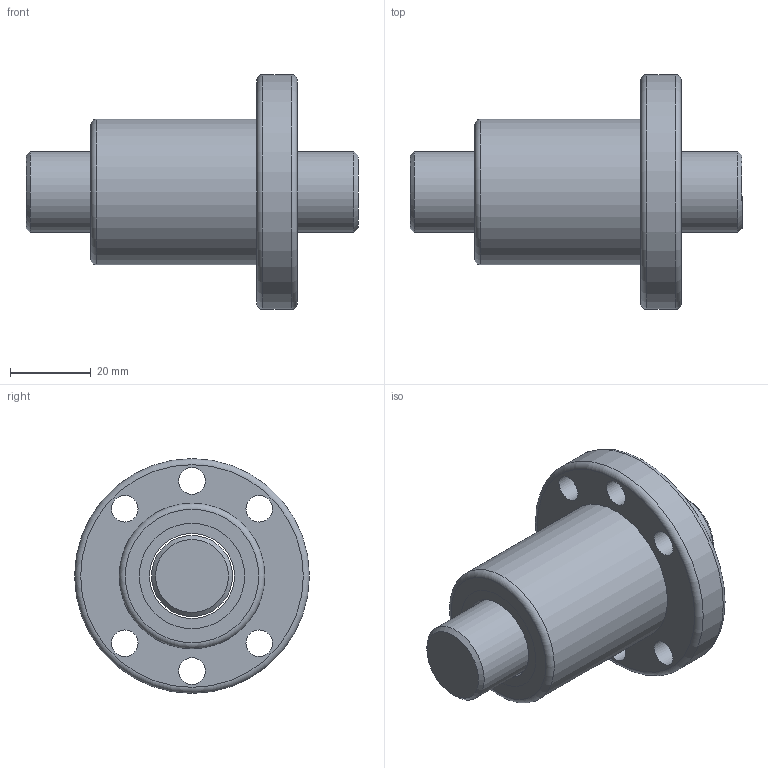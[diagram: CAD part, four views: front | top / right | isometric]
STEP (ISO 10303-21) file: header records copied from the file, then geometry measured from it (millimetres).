
FILE_DESCRIPTION(/* description */ (''),/* implementation_level */ '2;1');
FILE_NAME(/* name */ 'SFU2005',/* time_stamp */ '2007-10-26T13:26:03+08:00',/* author */ (''),/* organization */ (''),/* preprocessor_version */ 'ST-DEVELOPER v9',/* originating_system */ 'EDS PLM SOLUTIONS - UNIGRAPHICS NX 1.0',/* authorisation */ '');
FILE_SCHEMA (('CONFIG_CONTROL_DESIGN'));
Length unit declared in the file: millimetre
Products named in the file (1): FANNDA0400hz
Bounding box: 82 x 58 x 58 mm (x, y, z)
Volume: 73909.4 mm3; surface area: 23014.5 mm2
Topology: 4 solids, 4 shells, 32 faces, 64 edges, 43 vertices
Faces by surface type: cylinder 16, plane 11, torus 3, cone 2
Full cylindrical faces by diameter (mm): 6.6 x6, 20 x1, 21 x3, 26 x4, 36 x1, 58 x1
Entity records: 810 total; most frequent: DIRECTION 140, CARTESIAN_POINT 107, EDGE_LOOP 74, ORIENTED_EDGE 74, AXIS2_PLACEMENT_3D 70, FACE_BOUND 61, VERTEX_POINT 37, EDGE_CURVE 37
